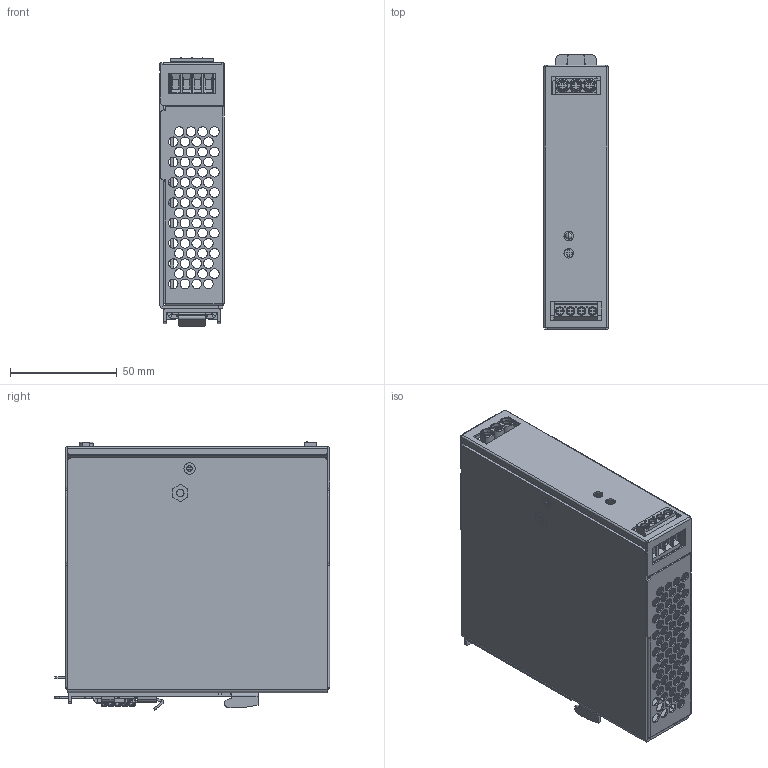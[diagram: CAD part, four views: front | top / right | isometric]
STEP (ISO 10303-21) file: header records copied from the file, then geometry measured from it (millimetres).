
FILE_DESCRIPTION((''),'2;1');
FILE_NAME('DRL-120W1EN_20231127_ASM','2023-11-27T08:48:16',('JOSH.LEE'),(''),'CREO PARAMETRIC BY PTC INC, 2020454','CREO PARAMETRIC BY PTC INC, 2020454','');
FILE_SCHEMA(('CONFIG_CONTROL_DESIGN','GEOMETRIC_VALIDATION_PROPERTIES_MIM'));
Products named in the file (25): CHASSIS_128; COVER_147; 120W-PWB_104; INSULATOR-_90; 120WAC-PWB_53; LED_HORIZONTAL_2; VR132_1_11; CHASSIS-STANDOFF_11; 120WDC-PWB_59; MANIFOLD_SOLID_BREP_4713_1; MANIFOLD_SOLID_BREP_5409_1; MANIFOLD_SOLID_BREP_6107_1; MANIFOLD_SOLID_BREP_6805_1; MANIFOLD_SOLID_BREP_7503_1; DINKLE_EHK2V-XXP_6_ASM_1_ASM; DINKLE_EHK2V-04P_ASM_3_ASM; 3352090900_1; 3105469000-L6_2; DINKLE_ESK635V-5132-03P_1; CASE_ASM_165_ASM; NEW_BRACKET; SMAL_BRACKET; SPRING; DRL-120W_BRACKET_ASM; DRL-120W1EN_20231127_ASM
Assembly tree (28 placements, depth 5):
  DRL-120W1EN_20231127_ASM
    CASE_ASM_165_ASM
      CHASSIS_128
      COVER_147
      120W-PWB_104
      INSULATOR-_90
      120WAC-PWB_53
      LED_HORIZONTAL_2
      VR132_1_11
      CHASSIS-STANDOFF_11
      120WDC-PWB_59
      DINKLE_EHK2V-04P_ASM_3_ASM
        DINKLE_EHK2V-XXP_6_ASM_1_ASM
          MANIFOLD_SOLID_BREP_4713_1
          MANIFOLD_SOLID_BREP_5409_1
          MANIFOLD_SOLID_BREP_6107_1
          MANIFOLD_SOLID_BREP_6805_1
          MANIFOLD_SOLID_BREP_7503_1
      3352090900_1
      3105469000-L6_2  x5
      DINKLE_ESK635V-5132-03P_1
    DRL-120W_BRACKET_ASM
      NEW_BRACKET
      SMAL_BRACKET
      SPRING
Bounding box: 30 x 128.8 x 125.69 mm (x, y, z)
Volume: 79741.5 mm3; surface area: 152725.7 mm2
Topology: 24 solids, 24 shells, 2064 faces, 5421 edges, 3463 vertices
Faces by surface type: plane 1145, cylinder 769, cone 62, bspline 46, torus 34, sphere 8
Entity records: 67600 total; most frequent: CARTESIAN_POINT 14987, DIRECTION 10051, ORIENTED_EDGE 9698, EDGE_CURVE 4849, AXIS2_PLACEMENT_3D 3385, VECTOR 3281, LINE 3281, VERTEX_POINT 3091
